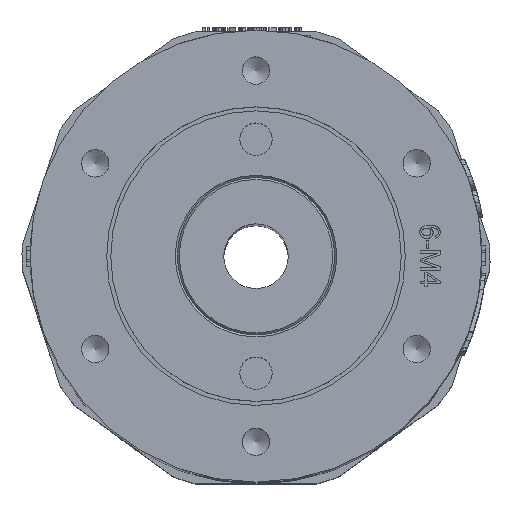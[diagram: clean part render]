
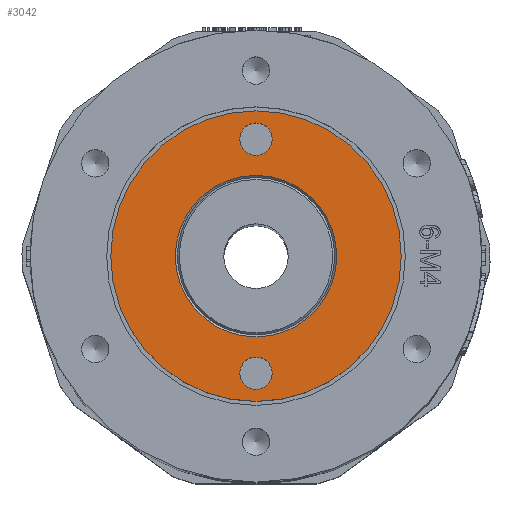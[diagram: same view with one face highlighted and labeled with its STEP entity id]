
A CAD part, top view. The second image highlights one B-rep face of the part: STEP entity #3042.
In plain terms, the highlighted planar face has unit normal (0, 0, 1).
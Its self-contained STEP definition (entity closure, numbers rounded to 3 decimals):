
#272=FACE_BOUND('',#7454,.T.);
#273=FACE_BOUND('',#7455,.T.);
#274=FACE_BOUND('',#7456,.T.);
#275=FACE_BOUND('',#7457,.T.);
#802=CIRCLE('',#24803,2.);
#804=CIRCLE('',#24807,2.);
#806=CIRCLE('',#24811,10.);
#809=CIRCLE('',#24816,18.);
#1496=PLANE('',#24819);
#3042=ADVANCED_FACE('',(#272,#273,#274,#275),#1496,.F.);
#7454=EDGE_LOOP('',(#11654));
#7455=EDGE_LOOP('',(#11655));
#7456=EDGE_LOOP('',(#11656));
#7457=EDGE_LOOP('',(#11657));
#11654=ORIENTED_EDGE('',*,*,#20146,.T.);
#11655=ORIENTED_EDGE('',*,*,#20148,.T.);
#11656=ORIENTED_EDGE('',*,*,#20150,.T.);
#11657=ORIENTED_EDGE('',*,*,#20153,.F.);
#16900=VERTEX_POINT('',#44862);
#16902=VERTEX_POINT('',#44868);
#16904=VERTEX_POINT('',#44874);
#16907=VERTEX_POINT('',#44882);
#20146=EDGE_CURVE('',#16900,#16900,#802,.T.);
#20148=EDGE_CURVE('',#16902,#16902,#804,.T.);
#20150=EDGE_CURVE('',#16904,#16904,#806,.T.);
#20153=EDGE_CURVE('',#16907,#16907,#809,.T.);
#24803=AXIS2_PLACEMENT_3D('',#44861,#27284,#27285);
#24807=AXIS2_PLACEMENT_3D('',#44867,#27292,#27293);
#24811=AXIS2_PLACEMENT_3D('',#44873,#27300,#27301);
#24816=AXIS2_PLACEMENT_3D('',#44881,#27310,#27311);
#24819=AXIS2_PLACEMENT_3D('',#44886,#27316,#27317);
#27284=DIRECTION('',(0.,0.,-1.));
#27285=DIRECTION('',(-1.,0.,0.));
#27292=DIRECTION('',(0.,0.,-1.));
#27293=DIRECTION('',(-1.,0.,0.));
#27300=DIRECTION('',(0.,0.,-1.));
#27301=DIRECTION('',(-1.,0.,0.));
#27310=DIRECTION('',(0.,0.,-1.));
#27311=DIRECTION('',(-1.,0.,0.));
#27316=DIRECTION('',(0.,0.,-1.));
#27317=DIRECTION('',(-1.,0.,0.));
#44861=CARTESIAN_POINT('',(0.,14.5,141.5));
#44862=CARTESIAN_POINT('',(-2.,14.5,141.5));
#44867=CARTESIAN_POINT('',(0.,-14.5,141.5));
#44868=CARTESIAN_POINT('',(-2.,-14.5,141.5));
#44873=CARTESIAN_POINT('',(0.,0.,141.5));
#44874=CARTESIAN_POINT('',(-10.,0.,141.5));
#44881=CARTESIAN_POINT('',(0.,0.,141.5));
#44882=CARTESIAN_POINT('',(-18.,0.,141.5));
#44886=CARTESIAN_POINT('',(0.,0.,141.5));
